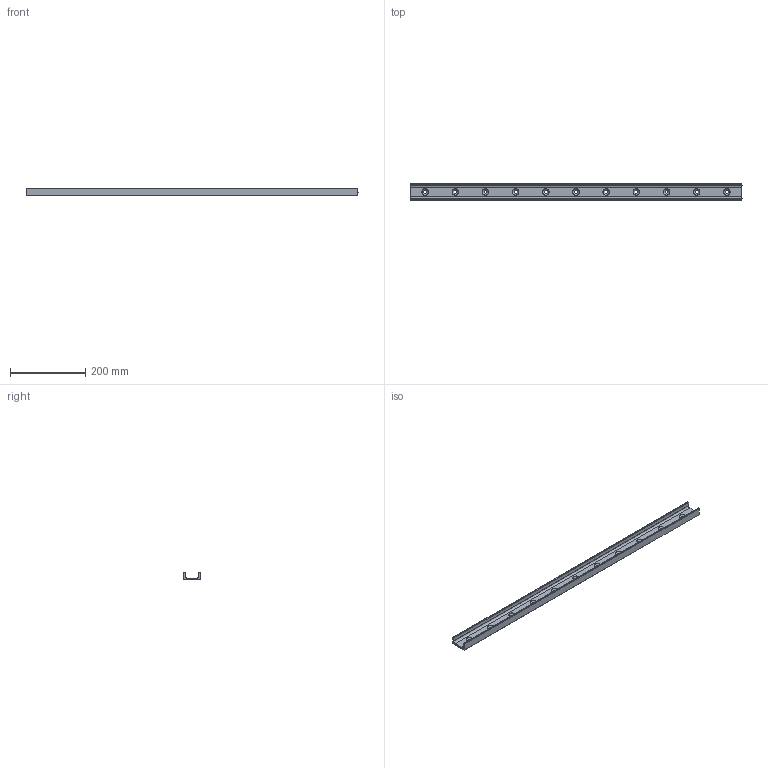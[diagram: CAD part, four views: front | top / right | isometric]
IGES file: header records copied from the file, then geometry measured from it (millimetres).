
Start section: SolidWorks IGES file using analytic representation for surfaces
Global section: file name: C:\Users\IanO\Desktop\43\L1943.ULV43_v2_20180121_IGES\L1943.ULV43-0880.igs; native system: SolidWorks 2017; preprocessor: SolidWorks 2017; author: IanO; date: 190121.085948; units: millimetre
Bounding box: 880 x 43 x 21 mm (x, y, z)
Surface area: 136994.3 mm2 (no closed solid volume)
Topology: 0 solids, 0 shells, 70 faces, 1174 edges, 1174 vertices
Faces by surface type: revolution 57, bspline 13
